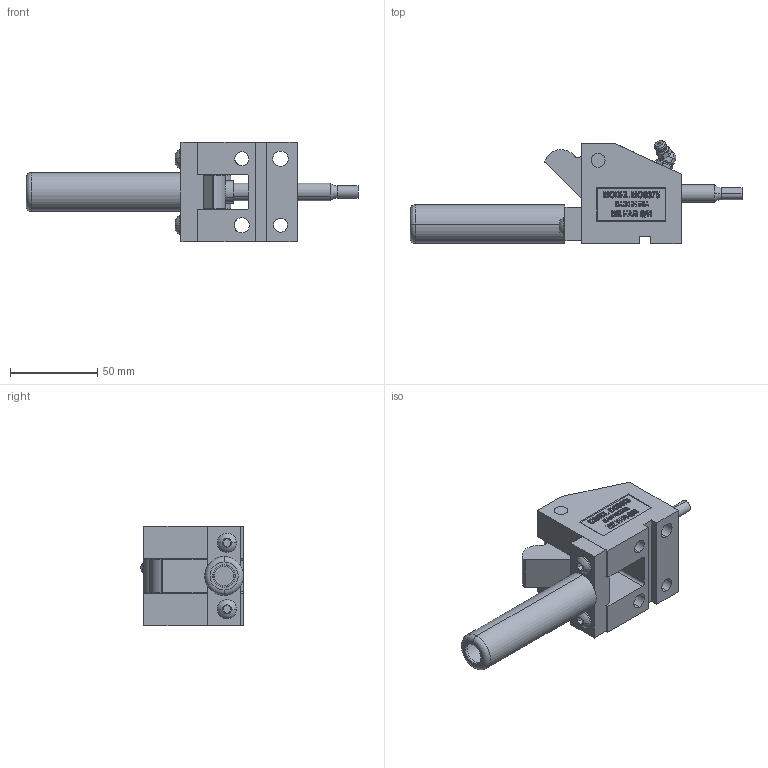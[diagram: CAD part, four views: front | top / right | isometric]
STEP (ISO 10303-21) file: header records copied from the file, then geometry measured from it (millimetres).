
FILE_DESCRIPTION (( 'STEP AP214' ), '1' );
FILE_NAME ('MOS375-C.STEP', '2014-01-06T20:20:45', ( 'user' ), ( '' ), 'SwSTEP 2.0', 'SolidWorks 2009', '' );
FILE_SCHEMA (( 'AUTOMOTIVE_DESIGN' ));
Length unit declared in the file: inch
Products named in the file (10): GREASE ZERK; 375-TRIGGER; 375-O-STRAP; OS375-CAGE; 1-4 SCREW; MOS375-C; MOS375-BODY; 375 PIVOT PIN; M-O-375-POINT; MOS375-PUNCH
Assembly tree (10 placements, depth 2):
  MOS375-C
    M-O-375-POINT
    GREASE ZERK
    1-4 SCREW  x2
    375 PIVOT PIN
    MOS375-PUNCH
    OS375-CAGE
    375-O-STRAP
    375-TRIGGER
    MOS375-BODY
Bounding box: 190.5 x 59.05 x 57.15 mm (x, y, z)
Volume: 155597.9 mm3; surface area: 55197.5 mm2
Topology: 10 solids, 10 shells, 599 faces, 1558 edges, 1027 vertices
Faces by surface type: plane 349, bspline 109, cylinder 91, cone 24, torus 22, sphere 4
Entity records: 24333 total; most frequent: CARTESIAN_POINT 10398, ORIENTED_EDGE 3032, DIRECTION 2376, EDGE_CURVE 1516, VERTEX_POINT 1001, VECTOR 992, LINE 992, AXIS2_PLACEMENT_3D 692
